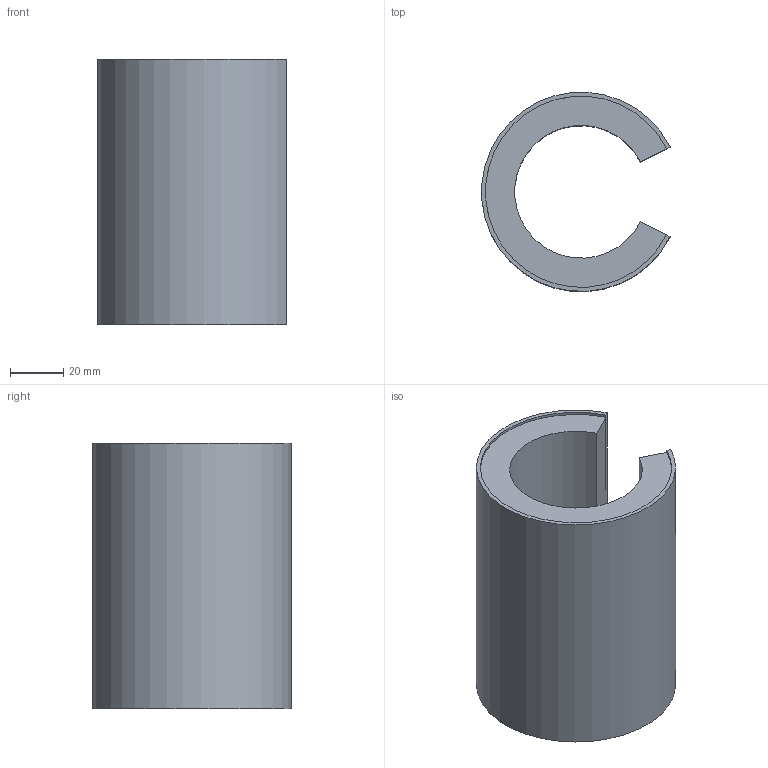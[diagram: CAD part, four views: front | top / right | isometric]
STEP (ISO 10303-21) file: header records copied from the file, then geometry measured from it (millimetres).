
FILE_DESCRIPTION(/* description */ (''),/* implementation_level */ '2;1');
FILE_NAME(/* name */ 'W:\WEBOVKY\Knecht\SBE (O)-UU\SBE (0)-50-UU\SME (O)-50-UU.stp',/* time_stamp */ '2021-03-08T14:47:37+01:00',/* author */ ('mkorenek'),/* organization */ (''),/* preprocessor_version */ 'ST-DEVELOPER v18.1',/* originating_system */ 'Autodesk Inventor 2021',/* authorisation */ '');
FILE_SCHEMA (('AUTOMOTIVE_DESIGN { 1 0 10303 214 3 1 1 }'));
Length unit declared in the file: millimetre
Products named in the file (3): LME-50-UU; vnějšek pouzdra; vnitřek pouzdra
Assembly tree (2 placements, depth 2):
  LME-50-UU
    vnějšek pouzdra
    vnitřek pouzdra
Bounding box: 70.82 x 74.83 x 100 mm (x, y, z)
Volume: 205218.1 mm3; surface area: 77898 mm2
Topology: 2 solids, 2 shells, 12 faces, 24 edges, 16 vertices
Faces by surface type: plane 8, cylinder 4
Entity records: 443 total; most frequent: DIRECTION 66, CARTESIAN_POINT 57, ORIENTED_EDGE 48, AXIS2_PLACEMENT_3D 25, EDGE_CURVE 24, LINE 16, VECTOR 16, VERTEX_POINT 16
